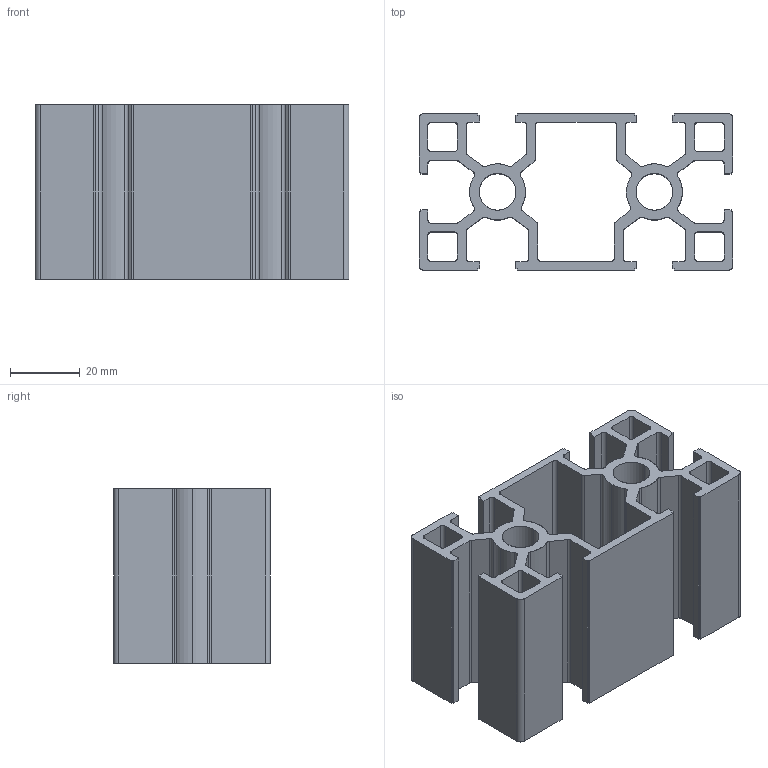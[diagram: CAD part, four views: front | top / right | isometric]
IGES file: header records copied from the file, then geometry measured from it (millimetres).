
Start section: SolidWorks IGES file using analytic representation for surfaces
Global section: file name: C:\Documents and Settings\URETIM3\Desktop\yeni katalog tolgay düzenli\C kataloðu\45x90 eloksallý sigma alüminyum profil\765 045 090.IGS; native system: SolidWorks 2006 by SolidWorks Corporation; preprocessor: SolidWorks 2006 by SolidWorks Corporation; author: URETIM3; date: 060912.103816; units: millimetre
Bounding box: 90 x 45 x 50 mm (x, y, z)
Surface area: 44204.9 mm2 (no closed solid volume)
Topology: 0 solids, 0 shells, 196 faces, 2064 edges, 2064 vertices
Faces by surface type: bspline 110, revolution 86
